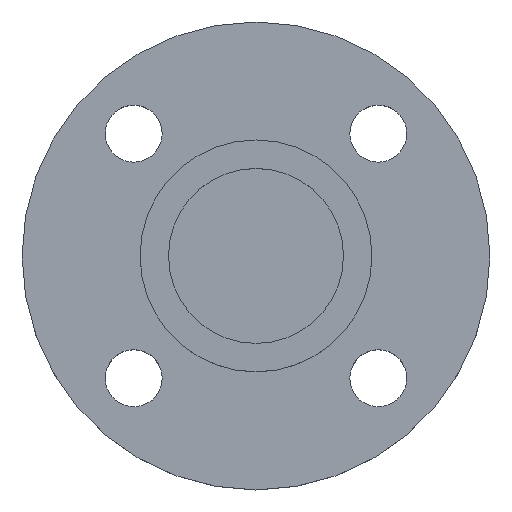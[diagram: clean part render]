
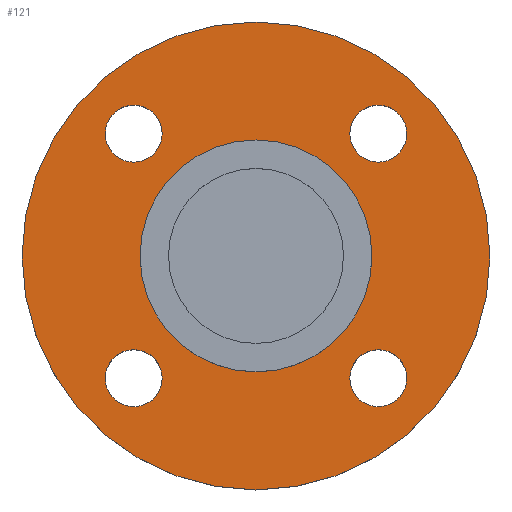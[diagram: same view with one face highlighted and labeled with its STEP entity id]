
A CAD part, top view. The second image highlights one B-rep face of the part: STEP entity #121.
In plain terms, the highlighted planar face has unit normal (0, 0, 1).
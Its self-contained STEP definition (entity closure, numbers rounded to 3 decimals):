
#3 = EDGE_CURVE ( 'NONE', #381, #385, #163, .T. ) ;
#6 = CIRCLE ( 'NONE', #37, 28.5 ) ;
#7 = EDGE_CURVE ( 'NONE', #385, #381, #192, .T. ) ;
#14 = EDGE_CURVE ( 'NONE', #387, #228, #75, .T. ) ;
#37 = AXIS2_PLACEMENT_3D ( 'NONE', #137, #138, #139 ) ;
#39 = CIRCLE ( 'NONE', #42, 7. ) ;
#42 = AXIS2_PLACEMENT_3D ( 'NONE', #198, #199, #200 ) ;
#66 = CIRCLE ( 'NONE', #81, 57.5 ) ;
#67 = EDGE_CURVE ( 'NONE', #383, #268, #66, .T. ) ;
#74 = CARTESIAN_POINT ( 'NONE',  ( 30.052, 30.052, -4.5 ) ) ;
#75 = CIRCLE ( 'NONE', #327, 7. ) ;
#76 = DIRECTION ( 'NONE',  ( 0., 0., -1. ) ) ;
#79 = AXIS2_PLACEMENT_3D ( 'NONE', #496, #497, #498 ) ;
#80 = DIRECTION ( 'NONE',  ( 1., 0., 0. ) ) ;
#81 = AXIS2_PLACEMENT_3D ( 'NONE', #442, #443, #444 ) ;
#92 = CIRCLE ( 'NONE', #168, 28.5 ) ;
#94 = AXIS2_PLACEMENT_3D ( 'NONE', #505, #506, #507 ) ;
#105 = CIRCLE ( 'NONE', #218, 7. ) ;
#106 = AXIS2_PLACEMENT_3D ( 'NONE', #514, #515, #516 ) ;
#107 = CARTESIAN_POINT ( 'NONE',  ( 57.5, 0., -4.5 ) ) ;
#121 = ADVANCED_FACE ( 'NONE', ( #488, #489, #491, #492, #493, #494 ), #495, .T. ) ;
#131 = EDGE_CURVE ( 'NONE', #268, #383, #305, .T. ) ;
#132 = CARTESIAN_POINT ( 'NONE',  ( 0., 0., -4.5 ) ) ;
#134 = DIRECTION ( 'NONE',  ( 0., 0., -1. ) ) ;
#135 = DIRECTION ( 'NONE',  ( -1., 0., 0. ) ) ;
#137 = CARTESIAN_POINT ( 'NONE',  ( 0., 0., -4.5 ) ) ;
#138 = DIRECTION ( 'NONE',  ( 0., 0., -1. ) ) ;
#139 = DIRECTION ( 'NONE',  ( -1., 0., 0. ) ) ;
#140 = AXIS2_PLACEMENT_3D ( 'NONE', #576, #578, #579 ) ;
#149 = AXIS2_PLACEMENT_3D ( 'NONE', #201, #202, #203 ) ;
#156 = EDGE_CURVE ( 'NONE', #228, #387, #262, .T. ) ;
#163 = CIRCLE ( 'NONE', #434, 7. ) ;
#168 = AXIS2_PLACEMENT_3D ( 'NONE', #132, #134, #135 ) ;
#173 = CARTESIAN_POINT ( 'NONE',  ( -23.052, 30.052, -4.5 ) ) ;
#179 = CARTESIAN_POINT ( 'NONE',  ( -28.5, 0., -4.5 ) ) ;
#186 = CARTESIAN_POINT ( 'NONE',  ( -23.052, -30.052, -4.5 ) ) ;
#189 = CIRCLE ( 'NONE', #149, 7. ) ;
#190 = CARTESIAN_POINT ( 'NONE',  ( -57.5, 0., -4.5 ) ) ;
#191 = CARTESIAN_POINT ( 'NONE',  ( -37.052, -30.052, -4.5 ) ) ;
#192 = CIRCLE ( 'NONE', #208, 7. ) ;
#195 = CARTESIAN_POINT ( 'NONE',  ( 37.052, -30.052, -4.5 ) ) ;
#196 = CARTESIAN_POINT ( 'NONE',  ( 23.052, 30.052, -4.5 ) ) ;
#198 = CARTESIAN_POINT ( 'NONE',  ( -30.052, 30.052, -4.5 ) ) ;
#199 = DIRECTION ( 'NONE',  ( 0., 0., -1. ) ) ;
#200 = DIRECTION ( 'NONE',  ( 1., 0., 0. ) ) ;
#201 = CARTESIAN_POINT ( 'NONE',  ( -30.052, 30.052, -4.5 ) ) ;
#202 = DIRECTION ( 'NONE',  ( 0., 0., -1. ) ) ;
#203 = DIRECTION ( 'NONE',  ( 1., 0., 0. ) ) ;
#204 = CIRCLE ( 'NONE', #140, 7. ) ;
#208 = AXIS2_PLACEMENT_3D ( 'NONE', #398, #399, #400 ) ;
#218 = AXIS2_PLACEMENT_3D ( 'NONE', #74, #76, #80 ) ;
#224 = EDGE_LOOP ( 'NONE', ( #318, #319 ) ) ;
#225 = VERTEX_POINT ( 'NONE', #575 ) ;
#226 = EDGE_CURVE ( 'NONE', #389, #239, #204, .T. ) ;
#228 = VERTEX_POINT ( 'NONE', #581 ) ;
#233 = VERTEX_POINT ( 'NONE', #586 ) ;
#239 = VERTEX_POINT ( 'NONE', #594 ) ;
#259 = EDGE_LOOP ( 'NONE', ( #320, #322 ) ) ;
#262 = CIRCLE ( 'NONE', #106, 7. ) ;
#264 = EDGE_CURVE ( 'NONE', #239, #389, #105, .T. ) ;
#268 = VERTEX_POINT ( 'NONE', #107 ) ;
#280 = EDGE_CURVE ( 'NONE', #233, #356, #92, .T. ) ;
#283 = EDGE_CURVE ( 'NONE', #356, #233, #6, .T. ) ;
#305 = CIRCLE ( 'NONE', #94, 57.5 ) ;
#309 = ORIENTED_EDGE ( 'NONE', *, *, #14, .T. ) ;
#310 = ORIENTED_EDGE ( 'NONE', *, *, #156, .T. ) ;
#311 = ORIENTED_EDGE ( 'NONE', *, *, #3, .T. ) ;
#312 = ORIENTED_EDGE ( 'NONE', *, *, #7, .T. ) ;
#313 = ORIENTED_EDGE ( 'NONE', *, *, #426, .T. ) ;
#314 = ORIENTED_EDGE ( 'NONE', *, *, #490, .T. ) ;
#316 = ORIENTED_EDGE ( 'NONE', *, *, #264, .T. ) ;
#317 = ORIENTED_EDGE ( 'NONE', *, *, #226, .T. ) ;
#318 = ORIENTED_EDGE ( 'NONE', *, *, #283, .T. ) ;
#319 = ORIENTED_EDGE ( 'NONE', *, *, #280, .T. ) ;
#320 = ORIENTED_EDGE ( 'NONE', *, *, #131, .F. ) ;
#322 = ORIENTED_EDGE ( 'NONE', *, *, #67, .F. ) ;
#323 = EDGE_LOOP ( 'NONE', ( #309, #310 ) ) ;
#327 = AXIS2_PLACEMENT_3D ( 'NONE', #406, #407, #408 ) ;
#329 = EDGE_LOOP ( 'NONE', ( #311, #312 ) ) ;
#340 = VERTEX_POINT ( 'NONE', #173 ) ;
#356 = VERTEX_POINT ( 'NONE', #179 ) ;
#374 = EDGE_LOOP ( 'NONE', ( #316, #317 ) ) ;
#381 = VERTEX_POINT ( 'NONE', #186 ) ;
#383 = VERTEX_POINT ( 'NONE', #190 ) ;
#385 = VERTEX_POINT ( 'NONE', #191 ) ;
#387 = VERTEX_POINT ( 'NONE', #195 ) ;
#388 = EDGE_LOOP ( 'NONE', ( #313, #314 ) ) ;
#389 = VERTEX_POINT ( 'NONE', #196 ) ;
#395 = CARTESIAN_POINT ( 'NONE',  ( -30.052, -30.052, -4.5 ) ) ;
#396 = DIRECTION ( 'NONE',  ( 0., 0., -1. ) ) ;
#397 = DIRECTION ( 'NONE',  ( 1., 0., 0. ) ) ;
#398 = CARTESIAN_POINT ( 'NONE',  ( -30.052, -30.052, -4.5 ) ) ;
#399 = DIRECTION ( 'NONE',  ( 0., 0., -1. ) ) ;
#400 = DIRECTION ( 'NONE',  ( 1., 0., 0. ) ) ;
#406 = CARTESIAN_POINT ( 'NONE',  ( 30.052, -30.052, -4.5 ) ) ;
#407 = DIRECTION ( 'NONE',  ( 0., 0., -1. ) ) ;
#408 = DIRECTION ( 'NONE',  ( 1., 0., 0. ) ) ;
#426 = EDGE_CURVE ( 'NONE', #340, #225, #39, .T. ) ;
#434 = AXIS2_PLACEMENT_3D ( 'NONE', #395, #396, #397 ) ;
#442 = CARTESIAN_POINT ( 'NONE',  ( 0., 0., -4.5 ) ) ;
#443 = DIRECTION ( 'NONE',  ( 0., 0., -1. ) ) ;
#444 = DIRECTION ( 'NONE',  ( -1., 0., 0. ) ) ;
#488 = FACE_BOUND ( 'NONE', #323, .T. ) ;
#489 = FACE_BOUND ( 'NONE', #329, .T. ) ;
#490 = EDGE_CURVE ( 'NONE', #225, #340, #189, .T. ) ;
#491 = FACE_BOUND ( 'NONE', #388, .T. ) ;
#492 = FACE_BOUND ( 'NONE', #374, .T. ) ;
#493 = FACE_BOUND ( 'NONE', #224, .T. ) ;
#494 = FACE_OUTER_BOUND ( 'NONE', #259, .T. ) ;
#495 = PLANE ( 'NONE',  #79 ) ;
#496 = CARTESIAN_POINT ( 'NONE',  ( 28.5, 0., -4.5 ) ) ;
#497 = DIRECTION ( 'NONE',  ( 0., 0., 1. ) ) ;
#498 = DIRECTION ( 'NONE',  ( 1., 0., 0. ) ) ;
#505 = CARTESIAN_POINT ( 'NONE',  ( 0., 0., -4.5 ) ) ;
#506 = DIRECTION ( 'NONE',  ( 0., 0., -1. ) ) ;
#507 = DIRECTION ( 'NONE',  ( -1., 0., 0. ) ) ;
#514 = CARTESIAN_POINT ( 'NONE',  ( 30.052, -30.052, -4.5 ) ) ;
#515 = DIRECTION ( 'NONE',  ( 0., 0., -1. ) ) ;
#516 = DIRECTION ( 'NONE',  ( 1., 0., 0. ) ) ;
#575 = CARTESIAN_POINT ( 'NONE',  ( -37.052, 30.052, -4.5 ) ) ;
#576 = CARTESIAN_POINT ( 'NONE',  ( 30.052, 30.052, -4.5 ) ) ;
#578 = DIRECTION ( 'NONE',  ( 0., 0., -1. ) ) ;
#579 = DIRECTION ( 'NONE',  ( 1., 0., 0. ) ) ;
#581 = CARTESIAN_POINT ( 'NONE',  ( 23.052, -30.052, -4.5 ) ) ;
#586 = CARTESIAN_POINT ( 'NONE',  ( 28.5, 0., -4.5 ) ) ;
#594 = CARTESIAN_POINT ( 'NONE',  ( 37.052, 30.052, -4.5 ) ) ;
